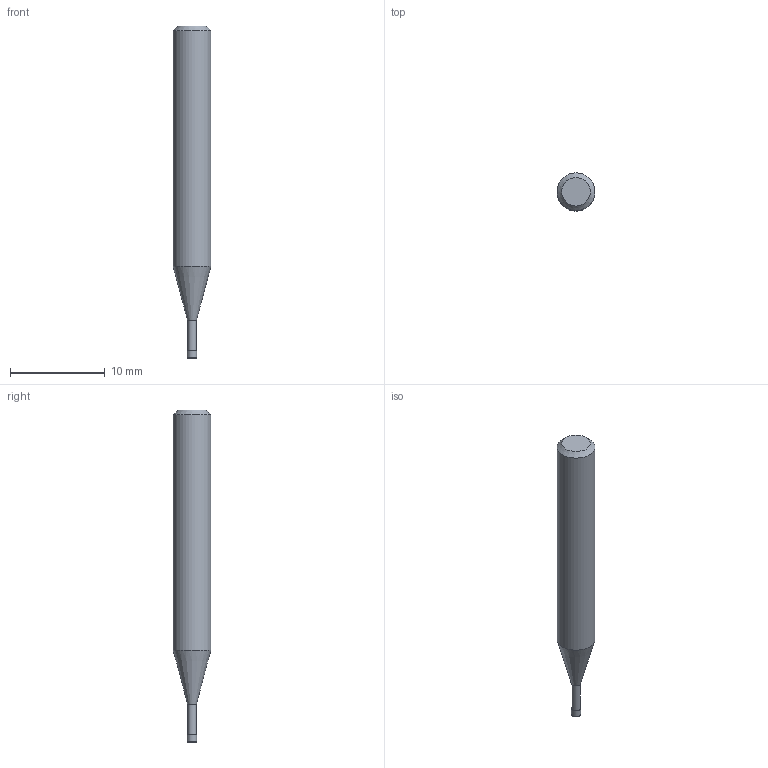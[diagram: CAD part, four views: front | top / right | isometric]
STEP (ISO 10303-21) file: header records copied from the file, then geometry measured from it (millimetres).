
FILE_DESCRIPTION((''),'2;1');
FILE_NAME('C:\Users\nsx150\AppData\Local\Temp\Mastercam 2021\80JYEHYUML\TEMP.step','2022-03-29T14:36:05',(''),(''),'STEP Write','Mastercam 2021 ... CNC Software, Inc.','');
FILE_SCHEMA(('AUTOMOTIVE_DESIGN'));
Length unit declared in the file: millimetre
Products named in the file (1): None
Bounding box: 4 x 4 x 35 mm (x, y, z)
Volume: 350.3 mm3; surface area: 386.7 mm2
Topology: 2 solids, 2 shells, 10 faces, 14 edges, 8 vertices
Faces by surface type: plane 4, cylinder 3, cone 2, torus 1
Full cylindrical faces by diameter (mm): 0.95 x1, 1 x1, 4 x1
Entity records: 232 total; most frequent: DIRECTION 40, CARTESIAN_POINT 28, AXIS2_PLACEMENT_3D 20, ORIENTED_EDGE 16, EDGE_LOOP 16, STYLED_ITEM 13, ADVANCED_FACE 10, FACE_BOUND 10
